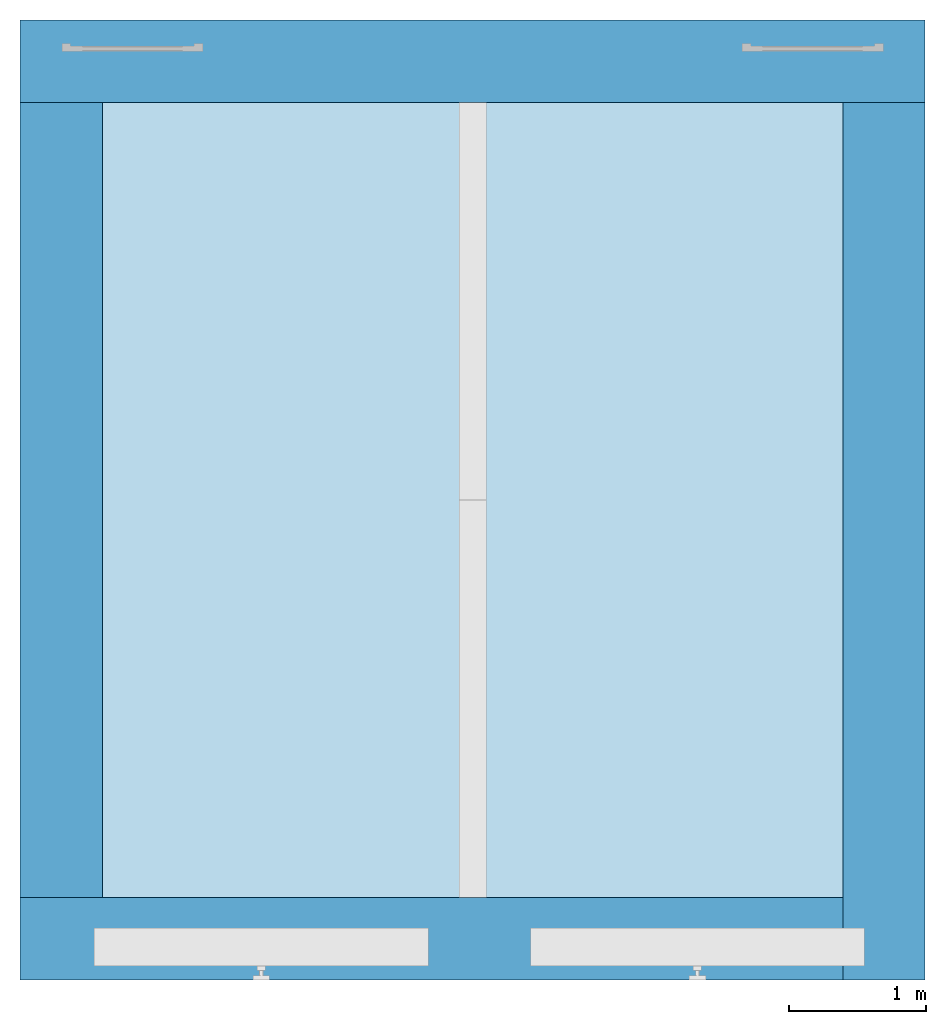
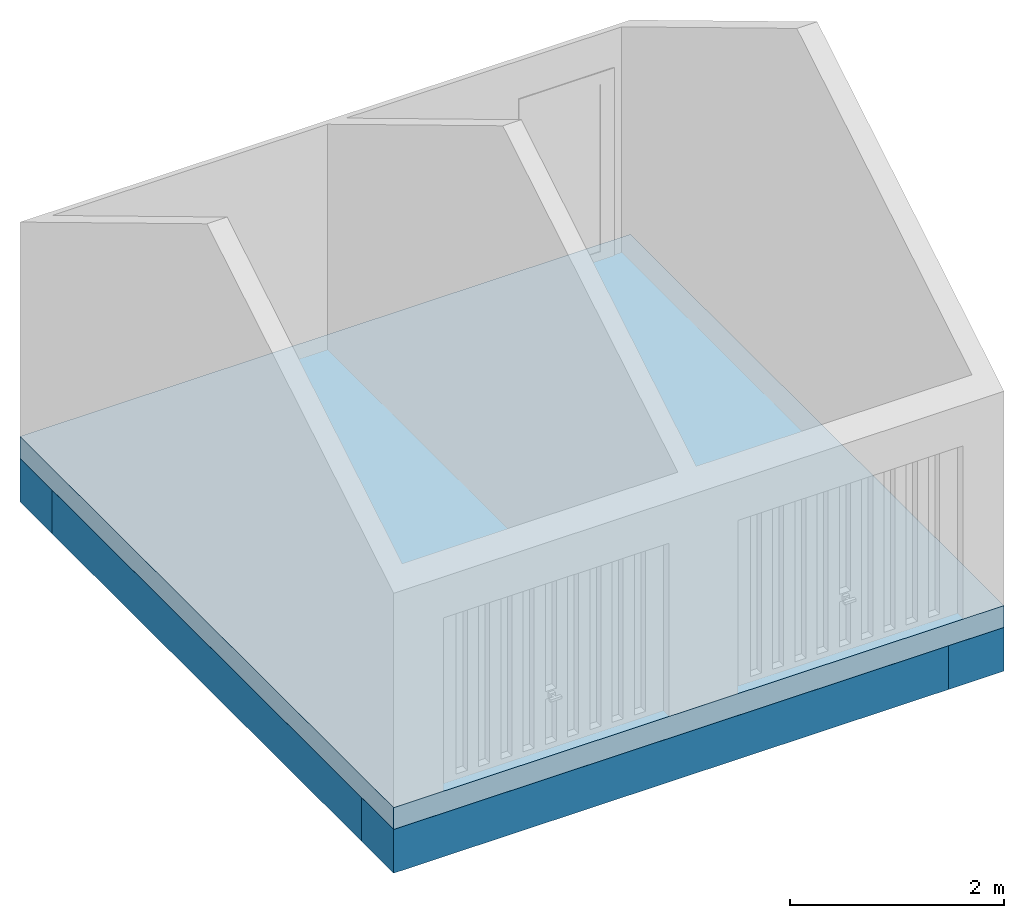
# One storey, part 1 of 6: 4 walls, 1 slab.
"""IFC2X3 building model written with IfcOpenShell, lengths in millimetres."""

from ifc_helpers import new_model, entity, si_unit, converted_unit, direction, origin, origin_with_axes, place, context, project, spatial, faceted_brep, element, save


model = new_model("IFC2X3")

# Units and contexts
model_context = context("Model", 3, precision=1e-05, world=origin(), true_north=direction((0.0, 1.0, 0.0)))
ifc_project = project(units=[si_unit("LENGTHUNIT", "METRE", prefix="MILLI"), si_unit("AREAUNIT", "SQUARE_METRE"), si_unit("VOLUMEUNIT", "CUBIC_METRE"), converted_unit("PLANEANGLEUNIT", "DEGREE", entity("IfcPlaneAngleMeasure", 0.01745), si_unit("PLANEANGLEUNIT", "RADIAN"), dimensions=[0, 0, 0, 0, 0, 0, 0]), si_unit("SOLIDANGLEUNIT", "STERADIAN"), si_unit("MASSUNIT", "GRAM"), si_unit("TIMEUNIT", "SECOND"), si_unit("THERMODYNAMICTEMPERATUREUNIT", "DEGREE_CELSIUS"), si_unit("LUMINOUSINTENSITYUNIT", "LUMEN")], contexts=[model_context])

# Site, building, storey
site_placement = place(None, origin_with_axes())
site = spatial("IfcSite", under=ifc_project, at=site_placement, Name="Default Site", CompositionType="ELEMENT")
building_placement = place(site_placement, origin_with_axes())
building = spatial("IfcBuilding", under=site, at=building_placement, Name="Default Building", CompositionType="ELEMENT")
storey_placement = place(building_placement, origin_with_axes())
storey = spatial("IfcBuildingStorey", under=building, at=storey_placement, Name="soubassement", CompositionType="ELEMENT", Elevation=0.0)

# Slab
slab_placement = place(storey_placement, origin_with_axes())
element("IfcSlab", 1, at=slab_placement, inside=storey, Name="IfcSlab - Sol:Dalle en béton - 250 mm", context=model_context, shape_type="Brep", body=[
    faceted_brep([(-3585.064888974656, -20973.58332314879, -250.0), (3014.935015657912, -13973.58332314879, -250.0), (3014.935015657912, -20973.58332314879, -250.0), (-3585.064888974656, -13973.58332314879, -250.0), (3014.935015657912, -20973.58332314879, 0.0), (-3585.064888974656, -13973.58332314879, 0.0), (-3585.064888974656, -20973.58332314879, 0.0), (3014.935015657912, -13973.58332314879, 0.0)], [[[0, 1, 2]], [[0, 3, 1]], [[4, 5, 6]], [[4, 7, 5]], [[3, 6, 5]], [[3, 0, 6]], [[1, 5, 7]], [[1, 3, 5]], [[2, 7, 4]], [[2, 1, 7]], [[0, 4, 6]], [[0, 2, 4]]]),
])

# Walls
wall_1_placement = place(storey_placement, origin_with_axes())
element("IfcWallStandardCase", 2, at=wall_1_placement, inside=storey, Name="IfcWallStandardCase - Mur de base:fond 60 cm", context=model_context, shape_type="Brep", body=[
    faceted_brep([(-3585.064948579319, -14573.58322778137, -250.0), (-2985.064924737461, -20373.58341851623, -250.0), (-2985.064924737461, -14573.58322778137, -250.0), (-3585.064948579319, -20373.58341851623, -250.0), (-2985.064924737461, -14573.58322778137, -750.0), (-3585.064948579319, -20373.58341851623, -750.0), (-3585.064948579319, -14573.58322778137, -750.0), (-2985.064924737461, -20373.58341851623, -750.0)], [[[0, 1, 2]], [[0, 3, 1]], [[4, 5, 6]], [[4, 7, 5]], [[3, 6, 5]], [[3, 0, 6]], [[1, 5, 7]], [[1, 3, 5]], [[2, 7, 4]], [[2, 1, 7]], [[0, 4, 6]], [[0, 2, 4]]]),
])
wall_2_placement = place(storey_placement, origin_with_axes())
element("IfcWallStandardCase", 3, at=wall_2_placement, inside=storey, Name="IfcWallStandardCase - Mur de base:fond 60 cm", context=model_context, shape_type="Brep", body=[
    faceted_brep([(-3585.06493665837, -20973.58333506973, -250.0), (2414.935063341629, -20373.58331122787, -250.0), (-3585.06493665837, -20373.58331122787, -250.0), (2414.935063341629, -20973.58333506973, -250.0), (-3585.06493665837, -20373.58331122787, -750.0), (2414.935063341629, -20973.58333506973, -750.0), (-3585.06493665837, -20973.58333506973, -750.0), (2414.935063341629, -20373.58331122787, -750.0)], [[[0, 1, 2]], [[0, 3, 1]], [[4, 5, 6]], [[4, 7, 5]], [[3, 6, 5]], [[3, 0, 6]], [[1, 5, 7]], [[1, 3, 5]], [[2, 7, 4]], [[2, 1, 7]], [[0, 4, 6]], [[0, 2, 4]]]),
])
wall_3_placement = place(storey_placement, origin_with_axes())
element("IfcWallStandardCase", 4, at=wall_3_placement, inside=storey, Name="IfcWallStandardCase - Mur de base:fond 60 cm", context=model_context, shape_type="Brep", body=[
    faceted_brep([(3014.935075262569, -20973.58337083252, -250.0), (2414.935051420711, -14573.58327546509, -250.0), (2414.935051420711, -20973.58337083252, -250.0), (3014.935075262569, -14573.58327546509, -250.0), (2414.935051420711, -20973.58337083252, -750.0), (3014.935075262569, -14573.58327546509, -750.0), (3014.935075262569, -20973.58337083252, -750.0), (2414.935051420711, -14573.58327546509, -750.0)], [[[0, 1, 2]], [[0, 3, 1]], [[4, 5, 6]], [[4, 7, 5]], [[3, 6, 5]], [[3, 0, 6]], [[1, 5, 7]], [[1, 3, 5]], [[2, 7, 4]], [[2, 1, 7]], [[0, 4, 6]], [[0, 2, 4]]]),
])
wall_4_placement = place(storey_placement, origin_with_axes())
element("IfcWallStandardCase", 5, at=wall_4_placement, inside=storey, Name="IfcWallStandardCase - Mur de base:fond 60 cm", context=model_context, shape_type="Brep", body=[
    faceted_brep([(3014.935015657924, -13973.58331122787, -250.0), (-3585.064888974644, -14573.58333506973, -250.0), (3014.935015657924, -14573.58333506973, -250.0), (-3585.064888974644, -13973.58331122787, -250.0), (3014.935015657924, -14573.58333506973, -750.0), (-3585.064888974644, -13973.58331122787, -750.0), (3014.935015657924, -13973.58331122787, -750.0), (-3585.064888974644, -14573.58333506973, -750.0)], [[[0, 1, 2]], [[0, 3, 1]], [[4, 5, 6]], [[4, 7, 5]], [[3, 6, 5]], [[3, 0, 6]], [[1, 5, 7]], [[1, 3, 5]], [[2, 7, 4]], [[2, 1, 7]], [[0, 4, 6]], [[0, 2, 4]]]),
])

save(model, "model.ifc")
